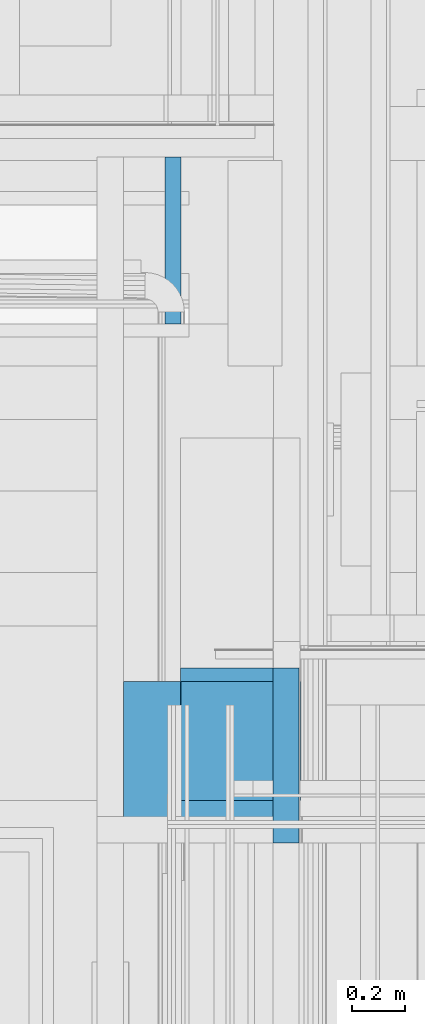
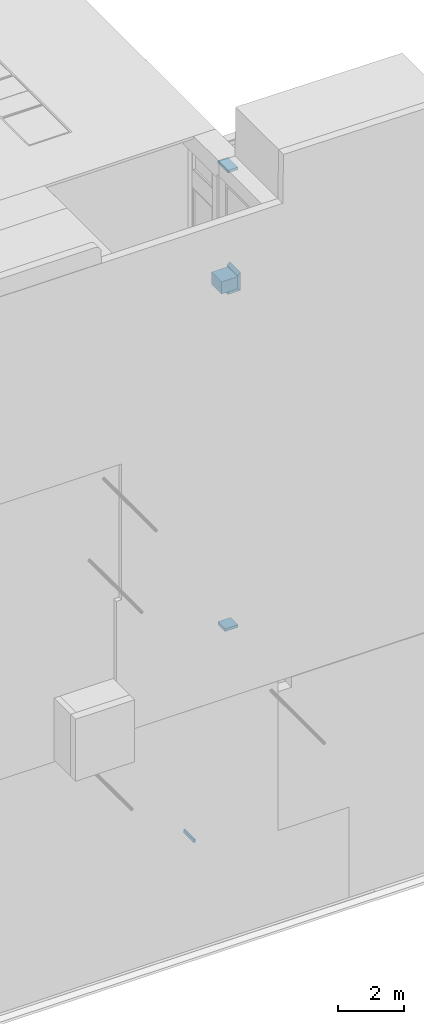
# One storey, part 30 of 583: 6 walls.
"""IFC2X3 building model written with IfcOpenShell, lengths in metres."""

from ifc_helpers import new_model, entity, si_unit, converted_unit, derived_unit, money_unit, direction, frame, frame_2d, origin_with_axes, place, context, subcontext, project, spatial, polyline, rectangle, outline, extrude, material, type_object, element, save


model = new_model("IFC2X3")

# Units and contexts
model_context = context("Model", 3, precision=1e-05, world=origin_with_axes(), true_north=direction((0.0, 1.0)))
body_context = subcontext(model_context, "Body", "Model", "MODEL_VIEW", scale=1.0)
ifc_project = project(units=[si_unit("LENGTHUNIT", "METRE"), si_unit("AREAUNIT", "SQUARE_METRE"), si_unit("VOLUMEUNIT", "CUBIC_METRE"), si_unit("ABSORBEDDOSEUNIT", "GRAY"), si_unit("AMOUNTOFSUBSTANCEUNIT", "MOLE"), si_unit("DOSEEQUIVALENTUNIT", "SIEVERT"), si_unit("ELECTRICCAPACITANCEUNIT", "FARAD"), si_unit("ELECTRICCHARGEUNIT", "COULOMB"), si_unit("ELECTRICCONDUCTANCEUNIT", "SIEMENS"), si_unit("ELECTRICCURRENTUNIT", "AMPERE"), si_unit("ELECTRICRESISTANCEUNIT", "OHM"), si_unit("ELECTRICVOLTAGEUNIT", "VOLT"), si_unit("ENERGYUNIT", "JOULE"), si_unit("FORCEUNIT", "NEWTON"), si_unit("FREQUENCYUNIT", "HERTZ"), si_unit("ILLUMINANCEUNIT", "LUX"), si_unit("INDUCTANCEUNIT", "HENRY"), si_unit("LUMINOUSFLUXUNIT", "LUMEN"), si_unit("LUMINOUSINTENSITYUNIT", "CANDELA"), si_unit("MAGNETICFLUXDENSITYUNIT", "TESLA"), si_unit("MAGNETICFLUXUNIT", "WEBER"), si_unit("MASSUNIT", "GRAM"), converted_unit("PLANEANGLEUNIT", "degree", entity("IfcReal", 0.0174532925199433), si_unit("PLANEANGLEUNIT", "RADIAN"), dimensions=[0, 0, 0, 0, 0, 0, 0]), si_unit("POWERUNIT", "WATT"), si_unit("PRESSUREUNIT", "PASCAL"), si_unit("RADIOACTIVITYUNIT", "BECQUEREL"), si_unit("SOLIDANGLEUNIT", "STERADIAN"), si_unit("THERMODYNAMICTEMPERATUREUNIT", "KELVIN"), si_unit("TIMEUNIT", "SECOND"), derived_unit("ACCELERATIONUNIT", [(si_unit("LENGTHUNIT", "METRE"), 1), (si_unit("TIMEUNIT", "SECOND"), -2)]), derived_unit("ANGULARVELOCITYUNIT", [(converted_unit("PLANEANGLEUNIT", "degree", entity("IfcReal", 0.0174532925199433), si_unit("PLANEANGLEUNIT", "RADIAN"), dimensions=[0, 0, 0, 0, 0, 0, 0]), 1), (si_unit("TIMEUNIT", "SECOND"), -1)]), derived_unit("CURVATUREUNIT", [(converted_unit("PLANEANGLEUNIT", "degree", entity("IfcReal", 0.0174532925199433), si_unit("PLANEANGLEUNIT", "RADIAN"), dimensions=[0, 0, 0, 0, 0, 0, 0]), 1), (si_unit("LENGTHUNIT", "METRE"), -1)]), derived_unit("DYNAMICVISCOSITYUNIT", [(si_unit("PRESSUREUNIT", "PASCAL"), 1), (si_unit("TIMEUNIT", "SECOND"), 1)]), derived_unit("HEATFLUXDENSITYUNIT", [(si_unit("POWERUNIT", "WATT"), 1), (si_unit("LENGTHUNIT", "METRE"), -2)]), derived_unit("HEATINGVALUEUNIT", [(si_unit("ENERGYUNIT", "JOULE"), 1), (si_unit("MASSUNIT", "GRAM"), -1)]), derived_unit("INTEGERCOUNTRATEUNIT", [(si_unit("TIMEUNIT", "SECOND"), -1)]), derived_unit("IONCONCENTRATIONUNIT", [(si_unit("MASSUNIT", "GRAM"), 1), (si_unit("VOLUMEUNIT", "CUBIC_METRE"), -1)]), derived_unit("ISOTHERMALMOISTURECAPACITYUNIT", [(si_unit("VOLUMEUNIT", "CUBIC_METRE"), 1), (si_unit("MASSUNIT", "GRAM"), -1)]), derived_unit("KINEMATICVISCOSITYUNIT", [(si_unit("AREAUNIT", "SQUARE_METRE"), 1), (si_unit("TIMEUNIT", "SECOND"), -1)]), derived_unit("LINEARFORCEUNIT", [(si_unit("FORCEUNIT", "NEWTON"), 1), (si_unit("LENGTHUNIT", "METRE"), -1)]), derived_unit("LINEARMOMENTUNIT", [(si_unit("FORCEUNIT", "NEWTON"), 1), (si_unit("LENGTHUNIT", "METRE"), -1)]), derived_unit("LINEARSTIFFNESSUNIT", [(si_unit("FORCEUNIT", "NEWTON"), 1), (si_unit("LENGTHUNIT", "METRE"), -1)]), derived_unit("LINEARVELOCITYUNIT", [(si_unit("LENGTHUNIT", "METRE"), 1), (si_unit("TIMEUNIT", "SECOND"), -1)]), derived_unit("LUMINOUSINTENSITYDISTRIBUTIONUNIT", [(si_unit("LUMINOUSINTENSITYUNIT", "CANDELA"), 1), (si_unit("LUMINOUSFLUXUNIT", "LUMEN"), -1)]), derived_unit("MASSDENSITYUNIT", [(si_unit("MASSUNIT", "GRAM"), 1), (si_unit("VOLUMEUNIT", "CUBIC_METRE"), -1)]), derived_unit("MASSFLOWRATEUNIT", [(si_unit("MASSUNIT", "GRAM"), 1), (si_unit("TIMEUNIT", "SECOND"), -1)]), derived_unit("MASSPERLENGTHUNIT", [(si_unit("MASSUNIT", "GRAM"), 1), (si_unit("LENGTHUNIT", "METRE"), -1)]), derived_unit("MODULUSOFELASTICITYUNIT", [(si_unit("FORCEUNIT", "NEWTON"), 1), (si_unit("AREAUNIT", "SQUARE_METRE"), -1)]), derived_unit("MODULUSOFLINEARSUBGRADEREACTIONUNIT", [(si_unit("FORCEUNIT", "NEWTON"), 1), (si_unit("LENGTHUNIT", "METRE"), -2)]), derived_unit("MODULUSOFROTATIONALSUBGRADEREACTIONUNIT", [(si_unit("FORCEUNIT", "NEWTON"), 1), (si_unit("LENGTHUNIT", "METRE"), 1)]), derived_unit("MODULUSOFSUBGRADEREACTIONUNIT", [(si_unit("FORCEUNIT", "NEWTON"), 1), (si_unit("VOLUMEUNIT", "CUBIC_METRE"), -1)]), derived_unit("MOISTUREDIFFUSIVITYUNIT", [(si_unit("VOLUMEUNIT", "CUBIC_METRE"), 1), (si_unit("TIMEUNIT", "SECOND"), -1)]), derived_unit("MOLECULARWEIGHTUNIT", [(si_unit("MASSUNIT", "GRAM"), 1), (si_unit("AMOUNTOFSUBSTANCEUNIT", "MOLE"), -1)]), derived_unit("PLANARFORCEUNIT", [(si_unit("FORCEUNIT", "NEWTON"), 1), (si_unit("LENGTHUNIT", "METRE"), -2)]), derived_unit("ROTATIONALFREQUENCYUNIT", [(si_unit("TIMEUNIT", "SECOND"), -1)]), derived_unit("ROTATIONALMASSUNIT", [(si_unit("MASSUNIT", "GRAM"), 1), (si_unit("LENGTHUNIT", "METRE"), 2)]), derived_unit("ROTATIONALSTIFFNESSUNIT", [(si_unit("FORCEUNIT", "NEWTON"), 1), (si_unit("LENGTHUNIT", "METRE"), 1), (converted_unit("PLANEANGLEUNIT", "degree", entity("IfcReal", 0.0174532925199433), si_unit("PLANEANGLEUNIT", "RADIAN"), dimensions=[0, 0, 0, 0, 0, 0, 0]), -1)]), derived_unit("SECTIONAREAINTEGRALUNIT", [(si_unit("LENGTHUNIT", "METRE"), 5)]), derived_unit("SECTIONMODULUSUNIT", [(si_unit("LENGTHUNIT", "METRE"), 3)]), derived_unit("SHEARMODULUSUNIT", [(si_unit("FORCEUNIT", "NEWTON"), 1), (si_unit("AREAUNIT", "SQUARE_METRE"), -1)]), derived_unit("SOUNDPOWERUNIT", [(si_unit("ENERGYUNIT", "JOULE"), 1), (si_unit("TIMEUNIT", "SECOND"), -1)]), derived_unit("SPECIFICHEATCAPACITYUNIT", [(si_unit("FORCEUNIT", "NEWTON"), 1), (si_unit("MASSUNIT", "GRAM"), -1), (si_unit("THERMODYNAMICTEMPERATUREUNIT", "KELVIN"), -1)]), derived_unit("TEMPERATUREGRADIENTUNIT", [(si_unit("THERMODYNAMICTEMPERATUREUNIT", "KELVIN"), 1), (si_unit("LENGTHUNIT", "METRE"), -1)]), derived_unit("THERMALADMITTANCEUNIT", [(si_unit("POWERUNIT", "WATT"), 1), (si_unit("AREAUNIT", "SQUARE_METRE"), -1), (si_unit("THERMODYNAMICTEMPERATUREUNIT", "KELVIN"), -1)]), derived_unit("THERMALCONDUCTANCEUNIT", [(si_unit("POWERUNIT", "WATT"), 1), (si_unit("LENGTHUNIT", "METRE"), -1), (si_unit("THERMODYNAMICTEMPERATUREUNIT", "KELVIN"), -1)]), derived_unit("THERMALEXPANSIONCOEFFICIENTUNIT", [(si_unit("THERMODYNAMICTEMPERATUREUNIT", "KELVIN"), -1)]), derived_unit("THERMALRESISTANCEUNIT", [(si_unit("AREAUNIT", "SQUARE_METRE"), 1), (si_unit("POWERUNIT", "WATT"), -1)]), derived_unit("THERMALTRANSMITTANCEUNIT", [(si_unit("POWERUNIT", "WATT"), 1), (si_unit("AREAUNIT", "SQUARE_METRE"), -1), (si_unit("THERMODYNAMICTEMPERATUREUNIT", "KELVIN"), -1)]), derived_unit("TORQUEUNIT", [(si_unit("FORCEUNIT", "NEWTON"), 1), (si_unit("LENGTHUNIT", "METRE"), 1)]), derived_unit("VAPORPERMEABILITYUNIT", [(si_unit("MASSUNIT", "GRAM"), 1), (si_unit("TIMEUNIT", "SECOND"), -1)]), derived_unit("VOLUMETRICFLOWRATEUNIT", [(si_unit("VOLUMEUNIT", "CUBIC_METRE"), 1), (si_unit("TIMEUNIT", "SECOND"), -1)]), derived_unit("WARPINGCONSTANTUNIT", [(si_unit("LENGTHUNIT", "METRE"), 6)]), derived_unit("WARPINGMOMENTUNIT", [(si_unit("FORCEUNIT", "NEWTON"), 1), (si_unit("LENGTHUNIT", "METRE"), 2)]), money_unit("GBP")], contexts=[model_context])

# Site, building, storey
site_placement = place(None, origin_with_axes())
site = spatial("IfcSite", under=ifc_project, at=site_placement, Name="Site", CompositionType="ELEMENT")
building_placement = place(site_placement, origin_with_axes())
building = spatial("IfcBuilding", under=site, at=building_placement, Name="Building01", CompositionType="ELEMENT")
storey_placement = place(building_placement, frame((0.0, 0.0, 20.78), z_axis=(0.0, 0.0, 1.0), x_axis=(1.0, 0.0, 0.0)))
storey = spatial("IfcBuildingStorey", under=building, at=storey_placement, Name="RL", CompositionType="ELEMENT", Elevation=20.78)

# Walls
ifc_material_1 = material(Name="A_BSUK_WallsExternal_Brick")
wall_type_1 = type_object("IfcWallType", Name="A-Walls-ExternalBrick", PredefinedType="NOTDEFINED")
wall_1_placement = place(storey_placement, frame((14.897172, 2.44, 1.82), z_axis=(0.0, 1.0, 0.0), x_axis=(0.0, 0.0, -1.0)))
element("IfcWall", 1, at=wall_1_placement, inside=storey, type_object=wall_type_1, material=ifc_material_1, Name="A-Walls-ExternalBrick", ObjectType="A-Walls-ExternalBrick", context=body_context, shape_type="SweptSolid", body=[
    extrude(outline(polyline([(0.569994, 0.1), (0.100006, 0.1), (0.0, 0.0), (0.67, 0.0), (0.569994, 0.1)])), origin_with_axes(), (0.0, 0.0, 1.0), 0.659759),
])
wall_2_placement = place(storey_placement, frame((14.449999, 2.6, -11.336962), z_axis=(1.0, 0.0, 0.0), x_axis=(0.0, 1.0, 0.0)))
element("IfcWall", 2, at=wall_2_placement, inside=storey, type_object=wall_type_1, material=ifc_material_1, Name="A-Walls-ExternalBrick", ObjectType="A-Walls-ExternalBrick", context=body_context, shape_type="SweptSolid", body=[
    extrude(rectangle(XDim=0.449998, YDim=0.1, at=frame_2d((0.224999, -0.05), x_axis=(1.0, 0.0))), frame((0.0, 0.0, 0.0), z_axis=(-3.51e-06, 0.0, 1.0), x_axis=(1.0, 0.0, 3.51e-06)), (3.51e-06, 0.0, 1.0), 0.451043),
])
wall_3_placement = place(storey_placement, frame((14.449011, 2.44, 5.64974), z_axis=(0.0, 1.0, 0.0), x_axis=(1.0, 0.0, -5.782e-05)))
element("IfcWall", 3, at=wall_3_placement, inside=storey, type_object=wall_type_1, material=ifc_material_1, Name="A-Walls-ExternalBrick", ObjectType="A-Walls-ExternalBrick", context=body_context, shape_type="SweptSolid", body=[
    extrude(outline(polyline([(0.350989, 0.0), (0.0, 0.0), (0.0, -0.1), (0.350983, -0.1), (0.350989, 0.0)])), origin_with_axes(), (0.0, 0.0, 1.0), 0.61),
])
wall_4_placement = place(storey_placement, frame((14.449011, 2.44, 1.150026), z_axis=(0.0, 1.0, 0.0), x_axis=(1.0, 0.0, -5.782e-05)))
element("IfcWall", 4, at=wall_4_placement, inside=storey, type_object=wall_type_1, material=ifc_material_1, Name="A-Walls-ExternalBrick", ObjectType="A-Walls-ExternalBrick", context=body_context, shape_type="SweptSolid", body=[
    extrude(outline(polyline([(0.448161, 0.0), (0.0, 0.0), (0.0, -0.1), (0.348155, -0.1), (0.448161, 0.0)])), origin_with_axes(), (0.0, 0.0, 1.0), 0.659759),
])
ifc_material_2 = material(Name="A_BSUK_WallsExternal_Block")
wall_type_2 = type_object("IfcWallType", Name="A-Walls-ExternalBlock", PredefinedType="NOTDEFINED")
wall_5_placement = place(storey_placement, frame((14.797172, 2.44, 1.238156), z_axis=(0.0, 1.0, 0.0), x_axis=(-1.0, 0.0, 0.0)))
element("IfcWall", 5, at=wall_5_placement, inside=storey, type_object=wall_type_2, material=ifc_material_2, Name="A-Walls-ExternalBlock", ObjectType="A-Walls-ExternalBlock", context=body_context, shape_type="SweptSolid", body=[
    extrude(rectangle(XDim=0.562876, YDim=0.454, at=frame_2d((0.281438, 0.227), x_axis=(-1.0, 0.0))), origin_with_axes(), (0.0, 0.0, 1.0), 0.61),
])
wall_6_placement = place(storey_placement, frame((14.389942, 4.4, -20.214298), z_axis=(0.0, 1.0, 0.0), x_axis=(1.0, 0.0, 0.0)))
element("IfcWall", 6, at=wall_6_placement, inside=storey, type_object=wall_type_2, material=ifc_material_2, Name="A-Walls-ExternalBlock", ObjectType="A-Walls-ExternalBlock", context=body_context, shape_type="SweptSolid", body=[
    extrude(rectangle(XDim=0.060058, YDim=0.115702, at=frame_2d((0.030029, 0.057851), x_axis=(1.0, 0.0))), origin_with_axes(), (0.0, 0.0, 1.0), 0.63),
])

save(model, "model.ifc")
